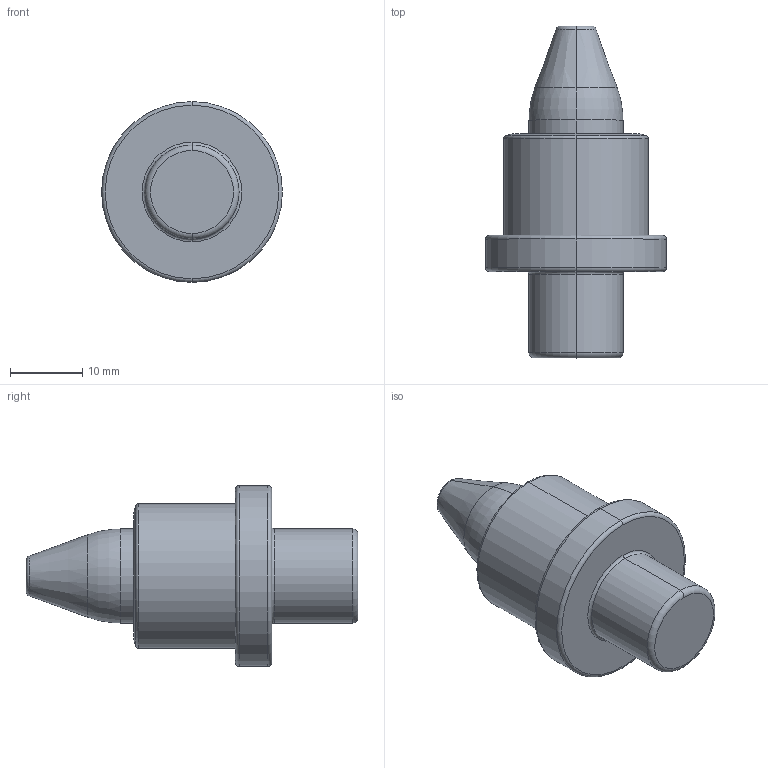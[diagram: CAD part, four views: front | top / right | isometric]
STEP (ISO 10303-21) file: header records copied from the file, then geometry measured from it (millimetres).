
FILE_DESCRIPTION (( 'STEP AP214' ), '1' );
FILE_NAME ('PA-13mm-1.9mm-R-W.stp', '2020-05-01T18:58:10', ( '' ), ( '' ), 'SwSTEP 2.0', 'SolidWorks 2017', '' );
FILE_SCHEMA (( 'AUTOMOTIVE_DESIGN' ));
Length unit declared in the file: inch
Products named in the file (1): PA-13mm-1.9mm-R-W
Bounding box: 25 x 45.89 x 25 mm (x, y, z)
Volume: 9710.4 mm3; surface area: 3046 mm2
Topology: 1 solids, 1 shells, 31 faces, 60 edges, 34 vertices
Faces by surface type: torus 14, cylinder 8, plane 5, cone 4
Entity records: 838 total; most frequent: DIRECTION 172, CARTESIAN_POINT 126, ORIENTED_EDGE 120, AXIS2_PLACEMENT_3D 80, EDGE_CURVE 60, CIRCLE 48, EDGE_LOOP 34, VERTEX_POINT 34
